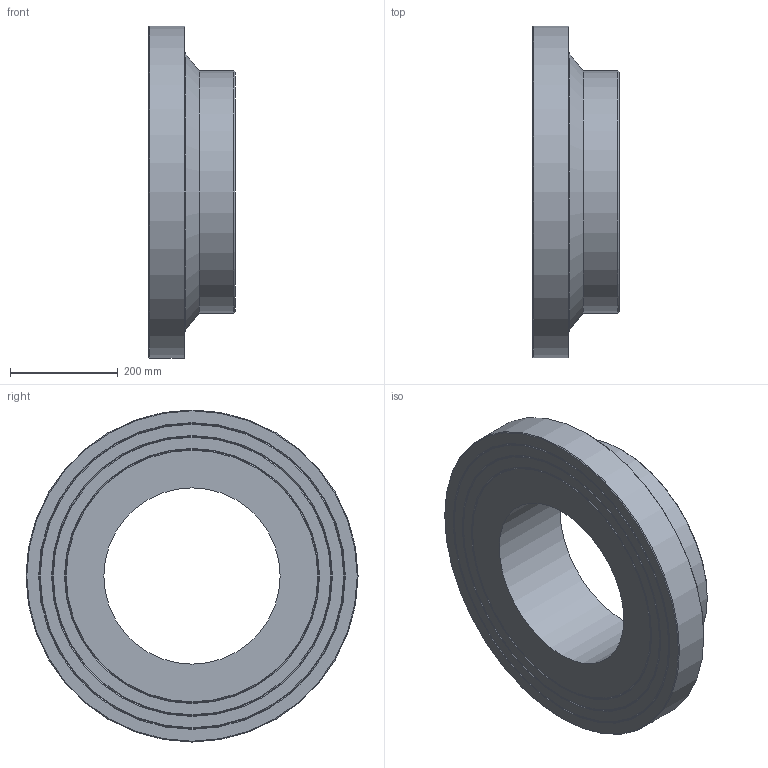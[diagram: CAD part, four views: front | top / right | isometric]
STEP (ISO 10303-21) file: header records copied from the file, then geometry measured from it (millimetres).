
FILE_DESCRIPTION(/* description */ ('Unknown'),/* implementation_level */ '2;1');
FILE_NAME(/* name */ 'CCP450H',/* time_stamp */ '2022-04-04T12:35:29+02:00',/* author */ ('Unknown'),/* organization */ ('Unknown'),/* preprocessor_version */ 'ST-DEVELOPER v18.1',/* originating_system */ 'Solid Edge',/* authorisation */ 'Unknown');
FILE_SCHEMA (('AUTOMOTIVE_DESIGN {1 0 10303 214 3 1 1}'));
Length unit declared in the file: millimetre
Products named in the file (1): CCP450H
Bounding box: 160 x 616 x 616 mm (x, y, z)
Volume: 21921517.5 mm3; surface area: 828572.3 mm2
Topology: 1 solids, 1 shells, 20 faces, 35 edges, 21 vertices
Faces by surface type: cone 10, plane 6, cylinder 3, torus 1
Full cylindrical faces by diameter (mm): 327 x1, 450 x1, 616 x1
Entity records: 438 total; most frequent: DIRECTION 82, CARTESIAN_POINT 61, AXIS2_PLACEMENT_3D 41, ORIENTED_EDGE 40, EDGE_LOOP 40, FACE_BOUND 40, EDGE_CURVE 20, VERTEX_POINT 20
